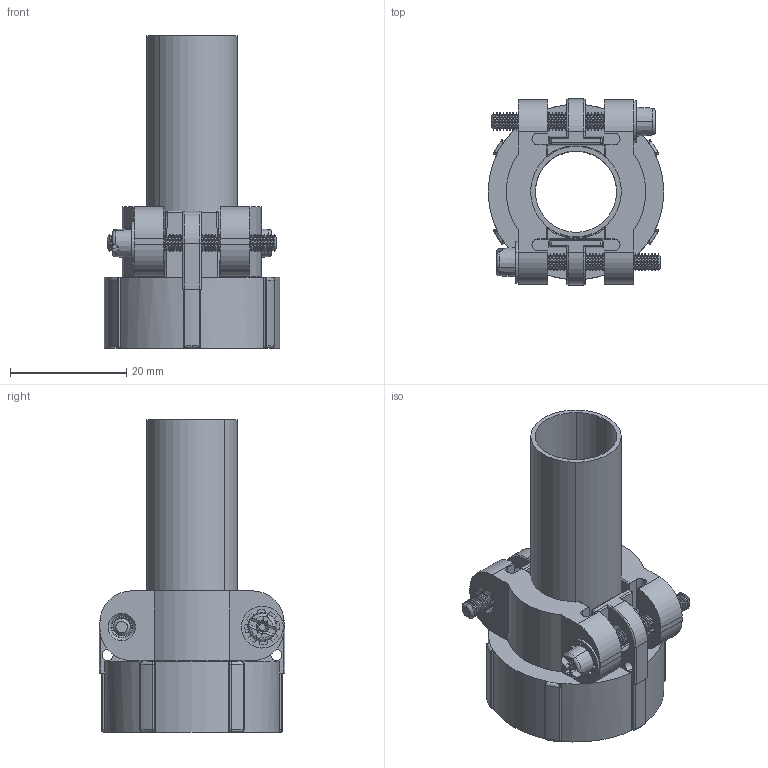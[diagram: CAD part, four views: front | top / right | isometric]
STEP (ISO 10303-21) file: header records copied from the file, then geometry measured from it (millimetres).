
FILE_DESCRIPTION (( 'STEP AP214' ), '1' );
FILE_NAME ('WPS3057-10A-R.STEP', '2025-12-26T14:16:16', ( '' ), ( '' ), 'SwSTEP 2.0', 'SolidWorks 2021', '' );
FILE_SCHEMA (( 'AUTOMOTIVE_DESIGN' ));
Length unit declared in the file: millimetre
Products named in the file (1): WPS3057-10A-R
Bounding box: 30.2 x 32 x 53.8 mm (x, y, z)
Volume: 9367.5 mm3; surface area: 14044.1 mm2
Topology: 9 solids, 9 shells, 1287 faces, 2926 edges, 1644 vertices
Faces by surface type: cylinder 611, cone 392, plane 183, torus 49, bspline 44, sphere 8
Entity records: 51416 total; most frequent: CARTESIAN_POINT 8328, DIRECTION 6451, ORIENTED_EDGE 5812, EDGE_CURVE 2906, AXIS2_PLACEMENT_3D 2519, VERTEX_POINT 1644, VECTOR 1413, LINE 1413
